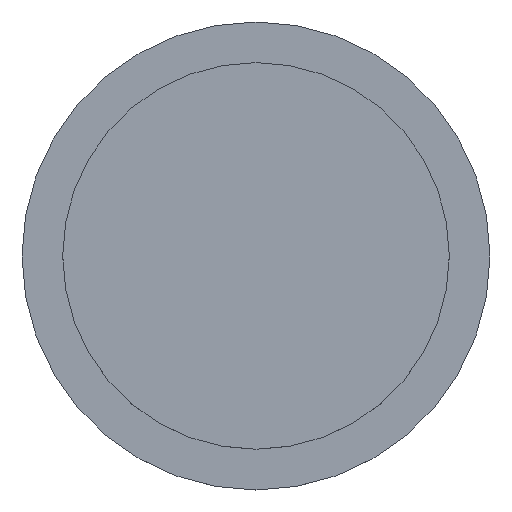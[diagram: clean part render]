
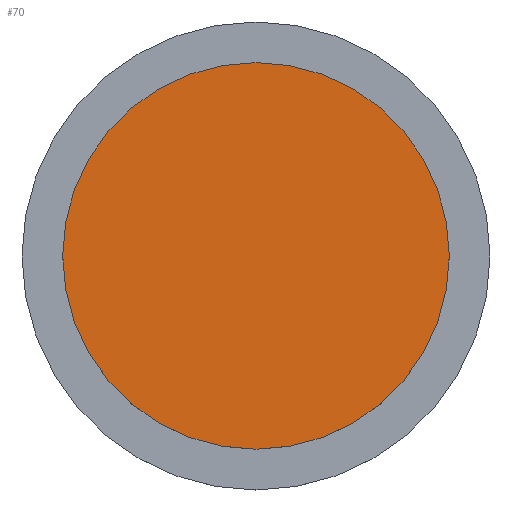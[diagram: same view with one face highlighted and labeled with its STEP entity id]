
A CAD part, top view. The second image highlights one B-rep face of the part: STEP entity #70.
In plain terms, the highlighted planar face has unit normal (0, 0, 1).
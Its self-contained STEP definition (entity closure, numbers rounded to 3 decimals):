
#24 = VERTEX_POINT('',#25);
#25 = CARTESIAN_POINT('',(30.7,61.3,13.5));
#31 = EDGE_CURVE('',#24,#24,#32,.T.);
#32 = CIRCLE('',#33,5.7);
#33 = AXIS2_PLACEMENT_3D('',#34,#35,#36);
#34 = CARTESIAN_POINT('',(25.,61.3,13.5));
#35 = DIRECTION('',(0.,0.,1.));
#36 = DIRECTION('',(1.,0.,0.));
#70 = ADVANCED_FACE('',(#71),#74,.T.);
#71 = FACE_BOUND('',#72,.F.);
#72 = EDGE_LOOP('',(#73));
#73 = ORIENTED_EDGE('',*,*,#31,.F.);
#74 = PLANE('',#75);
#75 = AXIS2_PLACEMENT_3D('',#76,#77,#78);
#76 = CARTESIAN_POINT('',(25.,61.3,13.5));
#77 = DIRECTION('',(0.,0.,1.));
#78 = DIRECTION('',(1.,0.,0.));
